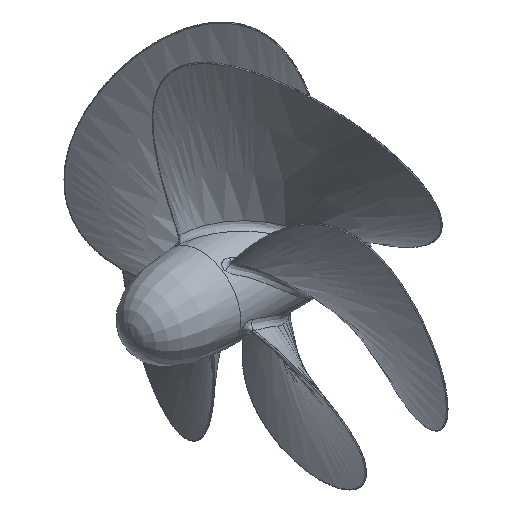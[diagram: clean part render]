
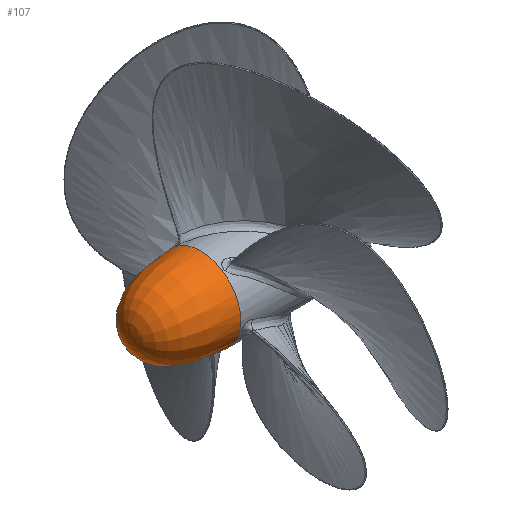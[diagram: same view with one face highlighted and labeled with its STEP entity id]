
A CAD part, isometric view. The second image highlights one B-rep face of the part: STEP entity #107.
In plain terms, the highlighted face is a revolution surface.
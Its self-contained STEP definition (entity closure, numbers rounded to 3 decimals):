
#68=CARTESIAN_POINT('',(-56.,0.0,-35.));
#69=CARTESIAN_POINT('',(-80.896,0.0,-35.));
#70=CARTESIAN_POINT('',(-116.622,0.0,-29.167));
#71=CARTESIAN_POINT('',(-116.622,0.0,0.));
#72=QUASI_UNIFORM_CURVE('',3,(#68,#69,#70,#71),.UNSPECIFIED.,.F.,.U.);
#73=CARTESIAN_POINT('',(-56.0,0.0,0.0));
#74=DIRECTION('',(-1.0,0.0,0.0));
#75=AXIS1_PLACEMENT('',#73,#74);
#76=SURFACE_OF_REVOLUTION('',#72,#75);
#77=CARTESIAN_POINT('',(-116.622,0.0,0.0));
#78=VERTEX_POINT('',#77);
#79=CARTESIAN_POINT('',(-56.0,0.0,-35.0));
#80=VERTEX_POINT('',#79);
#81=CARTESIAN_POINT('',(-116.622,0.0,0.));
#82=CARTESIAN_POINT('',(-116.622,0.0,-29.167));
#83=CARTESIAN_POINT('',(-80.896,0.0,-35.));
#84=CARTESIAN_POINT('',(-56.,0.0,-35.));
#85=QUASI_UNIFORM_CURVE('',3,(#81,#82,#83,#84),.UNSPECIFIED.,.F.,.U.);
#86=EDGE_CURVE('',#78,#80,#85,.T.);
#87=ORIENTED_EDGE('',*,*,#86,.T.);
#88=CARTESIAN_POINT('',(-56.0,-35.0,0.));
#89=VERTEX_POINT('',#88);
#90=CARTESIAN_POINT('',(-56.0,0.0,0.0));
#91=DIRECTION('',(1.0,0.0,0.0));
#92=DIRECTION('',(0.0,1.0,0.0));
#93=AXIS2_PLACEMENT_3D('',#90,#91,#92);
#94=CIRCLE('',#93,35.0);
#95=EDGE_CURVE('',#89,#80,#94,.T.);
#96=ORIENTED_EDGE('',*,*,#95,.F.);
#97=CARTESIAN_POINT('',(-56.0,0.0,0.0));
#98=DIRECTION('',(1.0,0.0,0.0));
#99=DIRECTION('',(0.0,1.0,0.0));
#100=AXIS2_PLACEMENT_3D('',#97,#98,#99);
#101=CIRCLE('',#100,35.0);
#102=EDGE_CURVE('',#80,#89,#101,.T.);
#103=ORIENTED_EDGE('',*,*,#102,.F.);
#104=ORIENTED_EDGE('',*,*,#86,.F.);
#105=EDGE_LOOP('',(#87,#96,#103,#104));
#106=FACE_OUTER_BOUND('',#105,.T.);
#107=ADVANCED_FACE('',(#106),#76,.T.);
